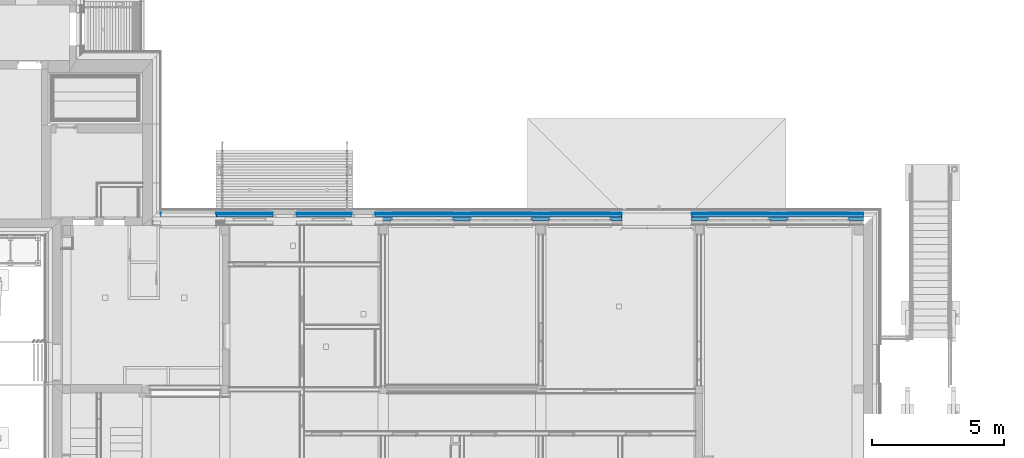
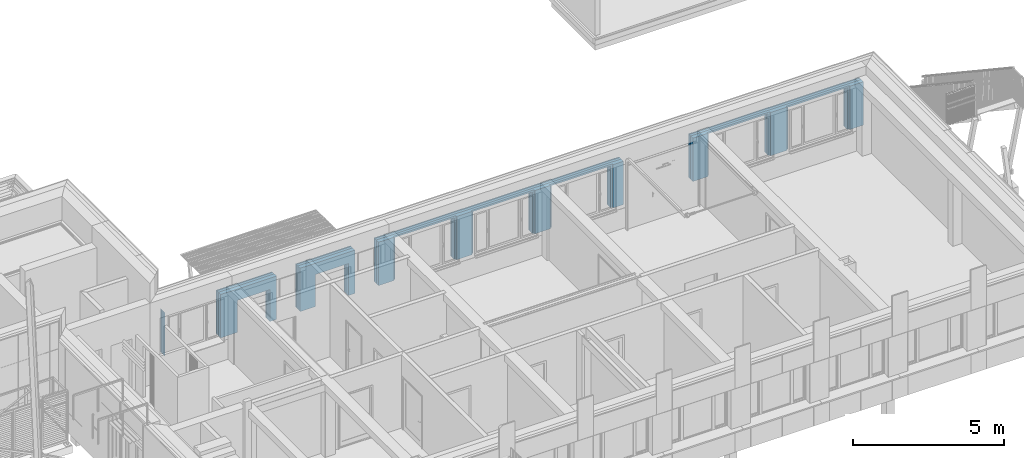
# One storey, part 45 of 418: 4 building element parts, 16 openings, 1 element without a shape of its own.
"""IFC2X3 building model written with IfcOpenShell, lengths in millimetres."""

from ifc_helpers import new_model, entity, si_unit, converted_unit, derived_unit, money_unit, direction, frame, origin_with_axes, origin_2d_with_axis, place, context, subcontext, project, spatial, polyline, rectangle, outline, extrude, material, type_object, element, aggregate, save


model = new_model("IFC2X3")

# Units and contexts
model_context = context("Model", 3, precision=0.01, world=origin_with_axes(), true_north=direction((0.0, 1.0)))
body_context = subcontext(model_context, "Body", "Model", "MODEL_VIEW")
ifc_project = project(units=[si_unit("LENGTHUNIT", "METRE", prefix="MILLI"), si_unit("AREAUNIT", "SQUARE_METRE"), si_unit("VOLUMEUNIT", "CUBIC_METRE"), converted_unit("PLANEANGLEUNIT", "DEGREE", entity("IfcPlaneAngleMeasure", 0.0174532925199), si_unit("PLANEANGLEUNIT", "RADIAN"), dimensions=[0, 0, 0, 0, 0, 0, 0]), si_unit("SOLIDANGLEUNIT", "STERADIAN"), money_unit("EUR"), converted_unit("TIMEUNIT", "Year", entity("IfcTimeMeasure", 31556926.0), si_unit("TIMEUNIT", "SECOND"), dimensions=[0, 0, 1, 0, 0, 0, 0]), si_unit("MASSUNIT", "GRAM", prefix="KILO"), si_unit("THERMODYNAMICTEMPERATUREUNIT", "DEGREE_CELSIUS"), si_unit("LUMINOUSINTENSITYUNIT", "LUMEN"), si_unit("ENERGYUNIT", "JOULE", prefix="MEGA"), derived_unit("THERMALCONDUCTANCEUNIT", [(si_unit("POWERUNIT", "WATT"), 1), (si_unit("LENGTHUNIT", "METRE"), -1), (si_unit("THERMODYNAMICTEMPERATUREUNIT", "KELVIN"), -1)]), derived_unit("SPECIFICHEATCAPACITYUNIT", [(si_unit("ENERGYUNIT", "JOULE"), 1), (si_unit("MASSUNIT", "GRAM", prefix="KILO"), -1), (si_unit("THERMODYNAMICTEMPERATUREUNIT", "KELVIN"), -1)]), derived_unit("MASSDENSITYUNIT", [(si_unit("MASSUNIT", "GRAM", prefix="KILO"), 1), (si_unit("VOLUMEUNIT", "CUBIC_METRE"), -1)])], contexts=[model_context])

# Site, building, storey
site_placement = place(None, origin_with_axes())
site = spatial("IfcSite", under=ifc_project, at=site_placement, Name="Paldiski mnt 245/1, Tallinn, Harjumaa", CompositionType="COMPLEX")
building_placement = place(site_placement, origin_with_axes())
building = spatial("IfcBuilding", under=site, at=building_placement, Name="RKAS Hoone üldnimetus (kasutust iseloomustav) -> IFC Project Manager -> SOLIBRI", CompositionType="ELEMENT")
storey_placement = place(building_placement, origin_with_axes())
storey = spatial("IfcBuildingStorey", under=building, at=storey_placement, Name="Esimene korrus", CompositionType="ELEMENT", Elevation=0.0)

# Wall, openings, building element parts
wall_type = type_object("IfcWallType", Name="VS-04_uued_kihid 300", PredefinedType="NOTDEFINED")
wall_placement = place(storey_placement, frame((-17230.0, 70.0000000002, 810.0), z_axis=(0.0, 0.0, 1.0), x_axis=(-1.0, 0.0, 0.0)))
wall = element("IfcWall", 1, at=wall_placement, inside=storey, type_object=wall_type, Name="VS-04")
opening_1_placement = place(wall_placement, frame((18955.9798644, -4.43478587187e-10, 0.0), z_axis=(0.0, 0.0, 1.0), x_axis=(1.0, 0.0, 0.0)))
element("IfcOpeningElement", 2, at=opening_1_placement, cuts=wall, Name="A-03", context=body_context, shape_type="SweptSolid", body=[
    extrude(rectangle(XDim=900.0, YDim=1750.0, at=origin_2d_with_axis()), frame((0.0, -230.0, 875.0), z_axis=(0.0, -1.0, 0.0), x_axis=(1.0, 0.0, 0.0)), (0.0, 0.0, -1.0), 530.0),
    extrude(rectangle(XDim=900.0, YDim=1750.0, at=origin_2d_with_axis()), frame((0.0, -230.0, 875.0), z_axis=(0.0, 1.0, 0.0), x_axis=(1.0, 0.0, 0.0)), (0.0, 0.0, -1.0), 370.0),
    extrude(rectangle(XDim=900.0, YDim=1750.0, at=origin_2d_with_axis()), frame((0.0, 4.41299774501e-10, 875.0), z_axis=(0.0, -1.0, 0.0), x_axis=(1.0, 0.0, 0.0)), (0.0, 0.0, -1.0), 370.0),
    extrude(rectangle(XDim=900.0, YDim=1758.0, at=origin_2d_with_axis()), frame((0.0, -300.0, 871.0), z_axis=(0.0, 1.0, 0.0), x_axis=(1.0, 0.0, 0.0)), (0.0, 0.0, -1.0), 370.0),
])
opening_2_placement = place(wall_placement, frame((16719.9798644, -3.91173204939e-10, 0.0), z_axis=(0.0, 0.0, 1.0), x_axis=(1.0, 0.0, 0.0)))
element("IfcOpeningElement", 3, at=opening_2_placement, cuts=wall, Name="A-01.1", context=body_context, shape_type="SweptSolid", body=[
    extrude(rectangle(XDim=2270.0, YDim=1685.0, at=origin_2d_with_axis()), frame((0.0, -49.9999999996, 842.5), z_axis=(0.0, 1.0, 0.0), x_axis=(1.0, 0.0, 0.0)), (0.0, 0.0, -1.0), 550.0),
    extrude(rectangle(XDim=2400.0, YDim=1750.0, at=origin_2d_with_axis()), frame((0.0, -49.9999999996, 875.0), z_axis=(0.0, 1.0, 0.0), x_axis=(1.0, 0.0, 0.0)), (0.0, 0.0, 1.0), 80.0),
    extrude(rectangle(XDim=2400.0, YDim=1750.0, at=origin_2d_with_axis()), frame((0.0, 30.0000000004, 875.0), z_axis=(0.0, -1.0, 0.0), x_axis=(1.0, 0.0, 0.0)), (0.0, 0.0, -1.0), 330.0),
])
opening_3_placement = place(wall_placement, frame((13739.9798644, -3.21451198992e-10, 0.0), z_axis=(0.0, 0.0, 1.0), x_axis=(1.0, 0.0, 0.0)))
element("IfcOpeningElement", 4, at=opening_3_placement, cuts=wall, Name="A-01.1", context=body_context, shape_type="SweptSolid", body=[
    extrude(rectangle(XDim=2270.0, YDim=1685.0, at=origin_2d_with_axis()), frame((0.0, -49.9999999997, 842.5), z_axis=(0.0, 1.0, 0.0), x_axis=(1.0, 0.0, 0.0)), (0.0, 0.0, -1.0), 550.0),
    extrude(rectangle(XDim=2400.0, YDim=1750.0, at=origin_2d_with_axis()), frame((0.0, -49.9999999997, 875.0), z_axis=(0.0, 1.0, 0.0), x_axis=(1.0, 0.0, 0.0)), (0.0, 0.0, 1.0), 80.0),
    extrude(rectangle(XDim=2400.0, YDim=1750.0, at=origin_2d_with_axis()), frame((0.0, 30.0000000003, 875.0), z_axis=(0.0, -1.0, 0.0), x_axis=(1.0, 0.0, 0.0)), (0.0, 0.0, -1.0), 330.0),
])
opening_4_placement = place(wall_placement, frame((10749.9798644, -2.51507148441e-10, 0.0), z_axis=(0.0, 0.0, 1.0), x_axis=(1.0, 0.0, 0.0)))
element("IfcOpeningElement", 5, at=opening_4_placement, cuts=wall, Name="A-01.1", context=body_context, shape_type="SweptSolid", body=[
    extrude(rectangle(XDim=2270.0, YDim=1685.0, at=origin_2d_with_axis()), frame((0.0, -49.9999999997, 842.5), z_axis=(0.0, 1.0, 0.0), x_axis=(1.0, 0.0, 0.0)), (0.0, 0.0, -1.0), 550.0),
    extrude(rectangle(XDim=2400.0, YDim=1750.0, at=origin_2d_with_axis()), frame((0.0, -49.9999999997, 875.0), z_axis=(0.0, 1.0, 0.0), x_axis=(1.0, 0.0, 0.0)), (0.0, 0.0, 1.0), 80.0),
    extrude(rectangle(XDim=2400.0, YDim=1750.0, at=origin_2d_with_axis()), frame((0.0, 30.0000000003, 875.0), z_axis=(0.0, -1.0, 0.0), x_axis=(1.0, 0.0, 0.0)), (0.0, 0.0, -1.0), 330.0),
])
opening_5_placement = place(wall_placement, frame((4739.97986437, -1.10897402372e-10, 0.0), z_axis=(0.0, 0.0, 1.0), x_axis=(1.0, 0.0, 0.0)))
element("IfcOpeningElement", 6, at=opening_5_placement, cuts=wall, Name="A-01.1", context=body_context, shape_type="SweptSolid", body=[
    extrude(rectangle(XDim=2270.0, YDim=1685.0, at=origin_2d_with_axis()), frame((0.0, -49.9999999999, 842.5), z_axis=(0.0, 1.0, 0.0), x_axis=(1.0, 0.0, 0.0)), (0.0, 0.0, -1.0), 550.0),
    extrude(rectangle(XDim=2400.0, YDim=1750.0, at=origin_2d_with_axis()), frame((0.0, -49.9999999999, 875.0), z_axis=(0.0, 1.0, 0.0), x_axis=(1.0, 0.0, 0.0)), (0.0, 0.0, 1.0), 80.0),
    extrude(rectangle(XDim=2400.0, YDim=1750.0, at=origin_2d_with_axis()), frame((0.0, 30.0000000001, 875.0), z_axis=(0.0, -1.0, 0.0), x_axis=(1.0, 0.0, 0.0)), (0.0, 0.0, -1.0), 330.0),
])
opening_6_placement = place(wall_placement, frame((1719.97986437, 0.0, 0.0), z_axis=(0.0, 0.0, 1.0), x_axis=(1.0, 0.0, 0.0)))
element("IfcOpeningElement", 7, at=opening_6_placement, cuts=wall, Name="A-01.1", context=body_context, shape_type="SweptSolid", body=[
    extrude(rectangle(XDim=2270.0, YDim=1685.0, at=origin_2d_with_axis()), frame((0.0, -50.0, 842.5), z_axis=(0.0, 1.0, 0.0), x_axis=(1.0, 0.0, 0.0)), (0.0, 0.0, -1.0), 550.0),
    extrude(rectangle(XDim=2400.0, YDim=1750.0, at=origin_2d_with_axis()), frame((0.0, -50.0, 875.0), z_axis=(0.0, 1.0, 0.0), x_axis=(1.0, 0.0, 0.0)), (0.0, 0.0, 1.0), 80.0),
    extrude(rectangle(XDim=2400.0, YDim=1750.0, at=origin_2d_with_axis()), frame((0.0, 30.0, 875.0), z_axis=(0.0, -1.0, 0.0), x_axis=(1.0, 0.0, 0.0)), (0.0, 0.0, -1.0), 330.0),
])
opening_7_placement = place(wall_placement, frame((25590.4715173, -5.98701643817e-10, 0.0), z_axis=(0.0, 0.0, 1.0), x_axis=(1.0, 0.0, 0.0)))
element("IfcOpeningElement", 8, at=opening_7_placement, cuts=wall, Name="A-04", context=body_context, shape_type="SweptSolid", body=[
    extrude(rectangle(XDim=2119.84238204, YDim=1750.0, at=origin_2d_with_axis()), frame((0.0, -159.999999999, 875.0), z_axis=(0.0, -1.0, 0.0), x_axis=(1.0, 0.0, 0.0)), (0.0, 0.0, -1.0), 460.0),
    extrude(rectangle(XDim=2119.84238204, YDim=1750.0, at=origin_2d_with_axis()), frame((0.0, -159.999999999, 875.0), z_axis=(0.0, 1.0, 0.0), x_axis=(1.0, 0.0, 0.0)), (0.0, 0.0, -1.0), 440.0),
    extrude(rectangle(XDim=2119.84238204, YDim=1750.0, at=origin_2d_with_axis()), frame((0.0, 5.95745675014e-10, 875.0), z_axis=(0.0, -1.0, 0.0), x_axis=(1.0, 0.0, 0.0)), (0.0, 0.0, -1.0), 440.0),
])
opening_8_placement = place(wall_placement, frame((21945.9798644, -5.13436515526e-10, 0.0), z_axis=(0.0, 0.0, 1.0), x_axis=(1.0, 0.0, 0.0)))
element("IfcOpeningElement", 9, at=opening_8_placement, cuts=wall, Name="A-03", context=body_context, shape_type="SweptSolid", body=[
    extrude(rectangle(XDim=900.0, YDim=1750.0, at=origin_2d_with_axis()), frame((0.0, -229.999999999, 875.0), z_axis=(0.0, -1.0, 0.0), x_axis=(1.0, 0.0, 0.0)), (0.0, 0.0, -1.0), 530.0),
    extrude(rectangle(XDim=900.0, YDim=1750.0, at=origin_2d_with_axis()), frame((0.0, -229.999999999, 875.0), z_axis=(0.0, 1.0, 0.0), x_axis=(1.0, 0.0, 0.0)), (0.0, 0.0, -1.0), 370.0),
    extrude(rectangle(XDim=900.0, YDim=1750.0, at=origin_2d_with_axis()), frame((0.0, 5.10924635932e-10, 875.0), z_axis=(0.0, -1.0, 0.0), x_axis=(1.0, 0.0, 0.0)), (0.0, 0.0, -1.0), 370.0),
    extrude(rectangle(XDim=900.0, YDim=1758.0, at=origin_2d_with_axis()), frame((0.0, -299.999999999, 871.0), z_axis=(0.0, 1.0, 0.0), x_axis=(1.0, 0.0, 0.0)), (0.0, 0.0, -1.0), 370.0),
])
opening_9_placement = place(wall_placement, frame((20909.9798644, -4.89192020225e-10, 5.00000019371), z_axis=(0.0, 0.0, 1.0), x_axis=(1.0, 0.0, 0.0)))
element("IfcOpeningElement", 10, at=opening_9_placement, cuts=wall, Name="Cembrit fassaadiplaadi vuuk", context=body_context, shape_type="SweptSolid", body=[
    extrude(outline(polyline([(-4.00000000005, 0.0), (4.00000000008, 0.0), (4.00000000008, 1745.0), (-4.00000000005, 1745.0), (-4.00000000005, 0.0)])), frame((0.0, -292.0, 0.0), z_axis=(0.0, 1.0, 0.0), x_axis=(-1.0, 0.0, 0.0)), (0.0, 0.0, -1.0), 308.0),
])
opening_10_placement = place(wall_placement, frame((19652.1766374, -4.59771110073e-10, 5.00000019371), z_axis=(0.0, 0.0, 1.0), x_axis=(1.0, 0.0, 0.0)))
element("IfcOpeningElement", 11, at=opening_10_placement, cuts=wall, Name="Cembrit fassaadiplaadi vuuk", context=body_context, shape_type="SweptSolid", body=[
    extrude(outline(polyline([(-4.0, 0.0), (4.0, 0.0), (4.0, 1745.0), (-4.0, 1745.0), (-4.0, 0.0)])), frame((0.0, -292.0, 0.0), z_axis=(0.0, 1.0, 0.0), x_axis=(-1.0, 0.0, 0.0)), (0.0, 0.0, -1.0), 308.0),
])
opening_11_placement = place(wall_placement, frame((23899.9798644, -5.59149948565e-10, 5.00000019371), z_axis=(0.0, 0.0, 1.0), x_axis=(1.0, 0.0, 0.0)))
element("IfcOpeningElement", 12, at=opening_11_placement, cuts=wall, Name="Cembrit fassaadiplaadi vuuk", context=body_context, shape_type="SweptSolid", body=[
    extrude(outline(polyline([(-3.99999999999, 0.0), (4.0, 0.0), (4.0, 1745.0), (-3.99999999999, 1745.0), (-3.99999999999, 0.0)])), frame((0.0, -291.999999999, 0.0), z_axis=(0.0, 1.0, 0.0), x_axis=(-1.0, 0.0, 0.0)), (0.0, 0.0, -1.0), 308.0),
])
opening_12_placement = place(wall_placement, frame((22641.9798644, -5.29715160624e-10, 5.00000019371), z_axis=(0.0, 0.0, 1.0), x_axis=(1.0, 0.0, 0.0)))
element("IfcOpeningElement", 13, at=opening_12_placement, cuts=wall, Name="Cembrit fassaadiplaadi vuuk", context=body_context, shape_type="SweptSolid", body=[
    extrude(outline(polyline([(-3.99999999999, 0.0), (4.0, 0.0), (4.0, 1745.0), (-3.99999999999, 1745.0), (-3.99999999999, 0.0)])), frame((0.0, -291.999999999, 0.0), z_axis=(0.0, 1.0, 0.0), x_axis=(-1.0, 0.0, 0.0)), (0.0, 0.0, -1.0), 308.0),
])
opening_13_placement = place(wall_placement, frame((21968.2650953, -5.13963871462e-10, 1290.0), z_axis=(0.0, 0.0, 1.0), x_axis=(1.0, 0.0, 0.0)))
element("IfcOpeningElement", 14, at=opening_13_placement, cuts=wall, Name="Cembrit fassaadiplaadi vuuk", context=body_context, shape_type="SweptSolid", body=[
    extrude(outline(polyline([(-2562.28523097, 0.0), (2562.28523097, 0.0), (2562.28523097, 8.0), (-2562.28523097, 8.0), (-2562.28523097, 0.0)])), frame((0.0, -291.999999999, 0.0), z_axis=(0.0, 1.0, 0.0), x_axis=(-1.0, 0.0, 0.0)), (0.0, 0.0, -1.0), 308.0),
])
opening_14_placement = place(wall_placement, frame((23270.9798644, -5.44439493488e-10, -810.0), z_axis=(0.0, 0.0, 1.0), x_axis=(1.0, 0.0, 0.0)))
element("IfcOpeningElement", 15, at=opening_14_placement, cuts=wall, Name="VU-02p", context=body_context, shape_type="SweptSolid", body=[
    extrude(rectangle(XDim=1250.0, YDim=2100.0, at=origin_2d_with_axis()), frame((0.0, -119.999999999, 1050.0), z_axis=(0.0, -1.0, 0.0), x_axis=(1.0, 0.0, 0.0)), (0.0, 0.0, 1.0), 480.0),
    extrude(rectangle(XDim=1250.0, YDim=2100.0, at=origin_2d_with_axis()), frame((0.0, -119.999999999, 1050.0), z_axis=(0.0, 1.0, 0.0), x_axis=(1.0, 0.0, 0.0)), (0.0, 0.0, 1.0), 420.0),
])
opening_15_placement = place(wall_placement, frame((20280.9798644, -4.74481565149e-10, -810.0), z_axis=(0.0, 0.0, 1.0), x_axis=(1.0, 0.0, 0.0)))
element("IfcOpeningElement", 16, at=opening_15_placement, cuts=wall, Name="VU-02p", context=body_context, shape_type="SweptSolid", body=[
    extrude(rectangle(XDim=1250.0, YDim=2100.0, at=origin_2d_with_axis()), frame((0.0, -120.0, 1050.0), z_axis=(0.0, -1.0, 0.0), x_axis=(1.0, 0.0, 0.0)), (0.0, 0.0, 1.0), 480.0),
    extrude(rectangle(XDim=1250.0, YDim=2100.0, at=origin_2d_with_axis()), frame((0.0, -120.0, 1050.0), z_axis=(0.0, 1.0, 0.0), x_axis=(1.0, 0.0, 0.0)), (0.0, 0.0, 1.0), 420.0),
])
opening_16_placement = place(wall_placement, frame((7834.97986437, -1.83297821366e-10, -810.0), z_axis=(0.0, 0.0, 1.0), x_axis=(1.0, 0.0, 0.0)))
element("IfcOpeningElement", 17, at=opening_16_placement, cuts=wall, Name="VU-07", context=body_context, shape_type="SweptSolid", body=[
    extrude(rectangle(XDim=2650.0, YDim=2560.0, at=origin_2d_with_axis()), frame((0.0, 250.0, 1280.0), z_axis=(0.0, -1.0, 0.0), x_axis=(1.0, 0.0, 0.0)), (0.0, 0.0, -1.0), 550.0),
    extrude(rectangle(XDim=2650.0, YDim=2560.0, at=origin_2d_with_axis()), frame((0.0, 250.0, 1280.0), z_axis=(0.0, 1.0, 0.0), x_axis=(1.0, 0.0, 0.0)), (0.0, 0.0, -1.0), 550.0),
])
ifc_material_1 = material(Name="Cembrit_C060")
building_element_part_1_placement = place(wall_placement, origin_with_axes())
building_element_part_1 = element("IfcBuildingElementPart", 18, at=building_element_part_1_placement, material=ifc_material_1, Name="Cembrit_C060", context=body_context, shape_type="SweptSolid", body=[
    extrude(outline(polyline([(0.0, -300.0), (26650.530323, -300.0), (26650.530323, -292.0), (0.0, -292.0), (0.0, -300.0)])), origin_with_axes(), (0.0, 0.0, 1.0), 1750.0),
])
ifc_material_2 = material(Name="VKR-06_Õhkvahe")
building_element_part_2_placement = place(wall_placement, origin_with_axes())
building_element_part_2 = element("IfcBuildingElementPart", 19, at=building_element_part_2_placement, material=ifc_material_2, Name="VKR-06_Õhkvahe", context=body_context, shape_type="SweptSolid", body=[
    extrude(outline(polyline([(0.0, -292.0), (26650.530323, -292.0), (26650.530323, -250.0), (0.0, -250.0), (0.0, -292.0)])), origin_with_axes(), (0.0, 0.0, 1.0), 1750.0),
])
ifc_material_3 = material(Name="Kingspan Kooltherm")
building_element_part_3_placement = place(wall_placement, origin_with_axes())
building_element_part_3 = element("IfcBuildingElementPart", 20, at=building_element_part_3_placement, material=ifc_material_3, Name="Kingspan Kooltherm", context=body_context, shape_type="SweptSolid", body=[
    extrude(outline(polyline([(0.0, -250.0), (26650.530323, -250.0), (26650.530323, -150.0), (0.0, -150.0), (0.0, -250.0)])), origin_with_axes(), (0.0, 0.0, 1.0), 1750.0),
])
building_element_part_4_placement = place(wall_placement, origin_with_axes())
building_element_part_4 = element("IfcBuildingElementPart", 21, at=building_element_part_4_placement, material=ifc_material_3, Name="Kingspan Kooltherm", context=body_context, shape_type="SweptSolid", body=[
    extrude(outline(polyline([(0.0, -150.0), (26650.530323, -150.0), (26650.530323, 0.0), (0.0, 0.0), (0.0, -150.0)])), origin_with_axes(), (0.0, 0.0, 1.0), 1750.0),
])
aggregate(wall, [building_element_part_1, building_element_part_2, building_element_part_3, building_element_part_4])

save(model, "model.ifc")
